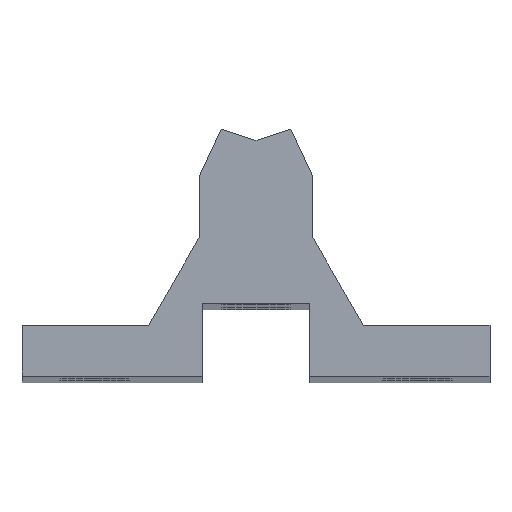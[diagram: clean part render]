
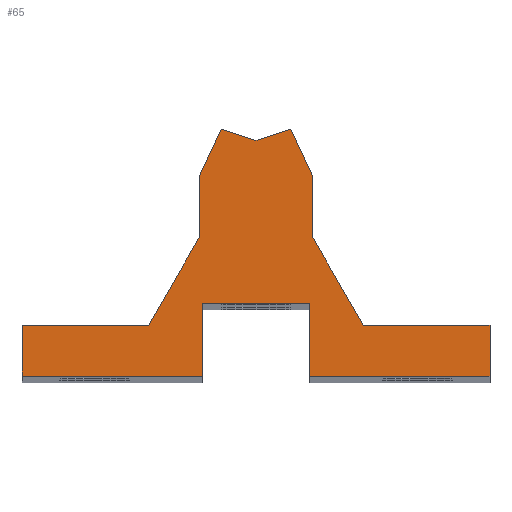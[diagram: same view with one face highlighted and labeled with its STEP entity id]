
A CAD part, top view. The second image highlights one B-rep face of the part: STEP entity #65.
In plain terms, the highlighted planar face has unit normal (0, 0, 1).
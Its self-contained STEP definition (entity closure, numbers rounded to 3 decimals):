
#2 = CARTESIAN_POINT ( 'NONE',  ( 0., 0., 299.75 ) ) ;
#28 = LINE ( 'NONE', #526, #113 ) ;
#57 = VECTOR ( 'NONE', #1507, 1000. ) ;
#65 = ADVANCED_FACE ( 'NONE', ( #877 ), #1020, .T. ) ;
#76 = CARTESIAN_POINT ( 'NONE',  ( -17., 4., 299.75 ) ) ;
#81 = CARTESIAN_POINT ( 'NONE',  ( 5.622, 35.045, 299.75 ) ) ;
#89 = VERTEX_POINT ( 'NONE', #1420 ) ;
#98 = ORIENTED_EDGE ( 'NONE', *, *, #1525, .F. ) ;
#105 = LINE ( 'NONE', #963, #1632 ) ;
#106 = CARTESIAN_POINT ( 'NONE',  ( -17., 4., 299.75 ) ) ;
#113 = VECTOR ( 'NONE', #1033, 1000. ) ;
#115 = VECTOR ( 'NONE', #1371, 1000. ) ;
#116 = DIRECTION ( 'NONE',  ( -0.5, 0.866, 0. ) ) ;
#125 = ORIENTED_EDGE ( 'NONE', *, *, #719, .F. ) ;
#129 = VERTEX_POINT ( 'NONE', #615 ) ;
#137 = LINE ( 'NONE', #270, #1411 ) ;
#164 = VERTEX_POINT ( 'NONE', #419 ) ;
#169 = CARTESIAN_POINT ( 'NONE',  ( -9., 17.856, 299.75 ) ) ;
#173 = EDGE_CURVE ( 'NONE', #190, #174, #437, .T. ) ;
#174 = VERTEX_POINT ( 'NONE', #304 ) ;
#182 = LINE ( 'NONE', #209, #555 ) ;
#183 = EDGE_CURVE ( 'NONE', #560, #694, #813, .T. ) ;
#184 = CARTESIAN_POINT ( 'NONE',  ( -5.516, 35.011, 299.75 ) ) ;
#189 = VECTOR ( 'NONE', #1157, 1000. ) ;
#190 = VERTEX_POINT ( 'NONE', #184 ) ;
#206 = ORIENTED_EDGE ( 'NONE', *, *, #642, .T. ) ;
#209 = CARTESIAN_POINT ( 'NONE',  ( -37., 4., 299.75 ) ) ;
#223 = VERTEX_POINT ( 'NONE', #425 ) ;
#226 = LINE ( 'NONE', #730, #845 ) ;
#227 = CARTESIAN_POINT ( 'NONE',  ( -9., 27.539, 299.75 ) ) ;
#236 = EDGE_CURVE ( 'NONE', #164, #190, #105, .T. ) ;
#261 = VERTEX_POINT ( 'NONE', #736 ) ;
#264 = EDGE_CURVE ( 'NONE', #223, #89, #1216, .T. ) ;
#270 = CARTESIAN_POINT ( 'NONE',  ( 17., 4., 299.75 ) ) ;
#288 = VECTOR ( 'NONE', #860, 1000. ) ;
#293 = CARTESIAN_POINT ( 'NONE',  ( 37., -4., 299.75 ) ) ;
#302 = EDGE_CURVE ( 'NONE', #261, #164, #1485, .T. ) ;
#304 = CARTESIAN_POINT ( 'NONE',  ( -9., 27.539, 299.75 ) ) ;
#356 = ORIENTED_EDGE ( 'NONE', *, *, #1241, .T. ) ;
#404 = CARTESIAN_POINT ( 'NONE',  ( 17., 4., 299.75 ) ) ;
#419 = CARTESIAN_POINT ( 'NONE',  ( 0., 33.272, 299.75 ) ) ;
#425 = CARTESIAN_POINT ( 'NONE',  ( -37., -4., 299.75 ) ) ;
#437 = LINE ( 'NONE', #1439, #1206 ) ;
#446 = CARTESIAN_POINT ( 'NONE',  ( 9., 27.539, 299.75 ) ) ;
#469 = LINE ( 'NONE', #227, #869 ) ;
#474 = VECTOR ( 'NONE', #1464, 1000. ) ;
#499 = ORIENTED_EDGE ( 'NONE', *, *, #183, .T. ) ;
#523 = VECTOR ( 'NONE', #557, 1000. ) ;
#526 = CARTESIAN_POINT ( 'NONE',  ( 37., 4., 299.75 ) ) ;
#548 = CARTESIAN_POINT ( 'NONE',  ( -8.5, 7.5, 299.75 ) ) ;
#555 = VECTOR ( 'NONE', #1354, 1000. ) ;
#557 = DIRECTION ( 'NONE',  ( 0., -1., 0. ) ) ;
#560 = VERTEX_POINT ( 'NONE', #1120 ) ;
#580 = CARTESIAN_POINT ( 'NONE',  ( -8.5, 7.5, 299.75 ) ) ;
#611 = DIRECTION ( 'NONE',  ( 0., 1., 0. ) ) ;
#615 = CARTESIAN_POINT ( 'NONE',  ( 8.5, 7.5, 299.75 ) ) ;
#642 = EDGE_CURVE ( 'NONE', #1626, #1214, #137, .T. ) ;
#647 = CARTESIAN_POINT ( 'NONE',  ( -8.5, 7.5, 299.75 ) ) ;
#656 = CARTESIAN_POINT ( 'NONE',  ( 5.5, 35.045, 299.75 ) ) ;
#663 = CARTESIAN_POINT ( 'NONE',  ( 9., 17.856, 299.75 ) ) ;
#671 = CARTESIAN_POINT ( 'NONE',  ( -37., 4., 299.75 ) ) ;
#694 = VERTEX_POINT ( 'NONE', #293 ) ;
#703 = ORIENTED_EDGE ( 'NONE', *, *, #721, .T. ) ;
#714 = ORIENTED_EDGE ( 'NONE', *, *, #264, .T. ) ;
#719 = EDGE_CURVE ( 'NONE', #129, #1406, #1288, .T. ) ;
#721 = EDGE_CURVE ( 'NONE', #694, #1523, #28, .T. ) ;
#730 = CARTESIAN_POINT ( 'NONE',  ( 8.5, 7.5, 299.75 ) ) ;
#731 = VERTEX_POINT ( 'NONE', #1107 ) ;
#736 = CARTESIAN_POINT ( 'NONE',  ( 5.516, 35.011, 299.75 ) ) ;
#777 = ORIENTED_EDGE ( 'NONE', *, *, #937, .T. ) ;
#778 = ORIENTED_EDGE ( 'NONE', *, *, #236, .T. ) ;
#813 = LINE ( 'NONE', #1297, #988 ) ;
#834 = LINE ( 'NONE', #446, #1652 ) ;
#843 = ORIENTED_EDGE ( 'NONE', *, *, #1373, .T. ) ;
#845 = VECTOR ( 'NONE', #611, 1000. ) ;
#853 = CARTESIAN_POINT ( 'NONE',  ( -37., 4., 299.75 ) ) ;
#860 = DIRECTION ( 'NONE',  ( 1., 0., 0. ) ) ;
#869 = VECTOR ( 'NONE', #1122, 1000. ) ;
#877 = FACE_OUTER_BOUND ( 'NONE', #1463, .T. ) ;
#884 = EDGE_CURVE ( 'NONE', #1246, #1376, #1142, .T. ) ;
#895 = VECTOR ( 'NONE', #1165, 1000. ) ;
#932 = DIRECTION ( 'NONE',  ( -0.423, -0.906, 0. ) ) ;
#937 = EDGE_CURVE ( 'NONE', #1376, #731, #182, .T. ) ;
#963 = CARTESIAN_POINT ( 'NONE',  ( 0., 33.272, 299.75 ) ) ;
#973 = CARTESIAN_POINT ( 'NONE',  ( 37., 4., 299.75 ) ) ;
#988 = VECTOR ( 'NONE', #1450, 1000. ) ;
#1007 = LINE ( 'NONE', #656, #895 ) ;
#1020 = PLANE ( 'NONE',  #1343 ) ;
#1033 = DIRECTION ( 'NONE',  ( 0., 1., 0. ) ) ;
#1035 = ORIENTED_EDGE ( 'NONE', *, *, #1389, .F. ) ;
#1069 = EDGE_CURVE ( 'NONE', #174, #1246, #469, .T. ) ;
#1098 = CARTESIAN_POINT ( 'NONE',  ( -37., -4., 299.75 ) ) ;
#1107 = CARTESIAN_POINT ( 'NONE',  ( -37., 4., 299.75 ) ) ;
#1108 = ORIENTED_EDGE ( 'NONE', *, *, #1069, .T. ) ;
#1115 = DIRECTION ( 'NONE',  ( -0.954, 0.301, 0. ) ) ;
#1119 = VERTEX_POINT ( 'NONE', #1524 ) ;
#1120 = CARTESIAN_POINT ( 'NONE',  ( 8.5, -4., 299.75 ) ) ;
#1122 = DIRECTION ( 'NONE',  ( 0., -1., 0. ) ) ;
#1142 = LINE ( 'NONE', #106, #1304 ) ;
#1157 = DIRECTION ( 'NONE',  ( -1., 0., 0. ) ) ;
#1165 = DIRECTION ( 'NONE',  ( -0.423, 0.906, 0. ) ) ;
#1184 = EDGE_CURVE ( 'NONE', #731, #223, #1361, .T. ) ;
#1206 = VECTOR ( 'NONE', #932, 1000. ) ;
#1214 = VERTEX_POINT ( 'NONE', #663 ) ;
#1216 = LINE ( 'NONE', #1098, #288 ) ;
#1225 = ORIENTED_EDGE ( 'NONE', *, *, #1184, .T. ) ;
#1241 = EDGE_CURVE ( 'NONE', #1119, #261, #1007, .T. ) ;
#1246 = VERTEX_POINT ( 'NONE', #169 ) ;
#1288 = LINE ( 'NONE', #647, #189 ) ;
#1292 = ORIENTED_EDGE ( 'NONE', *, *, #173, .T. ) ;
#1297 = CARTESIAN_POINT ( 'NONE',  ( -37., -4., 299.75 ) ) ;
#1304 = VECTOR ( 'NONE', #1324, 1000. ) ;
#1324 = DIRECTION ( 'NONE',  ( -0.5, -0.866, 0. ) ) ;
#1343 = AXIS2_PLACEMENT_3D ( 'NONE', #2, #1393, #1408 ) ;
#1353 = LINE ( 'NONE', #548, #523 ) ;
#1354 = DIRECTION ( 'NONE',  ( -1., 0., 0. ) ) ;
#1361 = LINE ( 'NONE', #853, #115 ) ;
#1369 = EDGE_CURVE ( 'NONE', #1523, #1626, #1447, .T. ) ;
#1371 = DIRECTION ( 'NONE',  ( 0., -1., 0. ) ) ;
#1373 = EDGE_CURVE ( 'NONE', #1214, #1119, #834, .T. ) ;
#1376 = VERTEX_POINT ( 'NONE', #76 ) ;
#1389 = EDGE_CURVE ( 'NONE', #1406, #89, #1353, .T. ) ;
#1393 = DIRECTION ( 'NONE',  ( 0., 0., 1. ) ) ;
#1402 = ORIENTED_EDGE ( 'NONE', *, *, #1369, .T. ) ;
#1406 = VERTEX_POINT ( 'NONE', #580 ) ;
#1408 = DIRECTION ( 'NONE',  ( 1., 0., 0. ) ) ;
#1411 = VECTOR ( 'NONE', #116, 1000. ) ;
#1420 = CARTESIAN_POINT ( 'NONE',  ( -8.5, -4., 299.75 ) ) ;
#1439 = CARTESIAN_POINT ( 'NONE',  ( -9., 27.539, 299.75 ) ) ;
#1447 = LINE ( 'NONE', #671, #474 ) ;
#1450 = DIRECTION ( 'NONE',  ( 1., 0., 0. ) ) ;
#1457 = DIRECTION ( 'NONE',  ( 0., 1., 0. ) ) ;
#1463 = EDGE_LOOP ( 'NONE', ( #98, #499, #703, #1402, #206, #843, #356, #1561, #778, #1292, #1108, #1586, #777, #1225, #714, #1035, #125 ) ) ;
#1464 = DIRECTION ( 'NONE',  ( -1., 0., 0. ) ) ;
#1485 = LINE ( 'NONE', #81, #57 ) ;
#1507 = DIRECTION ( 'NONE',  ( -0.954, -0.301, 0. ) ) ;
#1523 = VERTEX_POINT ( 'NONE', #973 ) ;
#1524 = CARTESIAN_POINT ( 'NONE',  ( 9., 27.539, 299.75 ) ) ;
#1525 = EDGE_CURVE ( 'NONE', #560, #129, #226, .T. ) ;
#1561 = ORIENTED_EDGE ( 'NONE', *, *, #302, .T. ) ;
#1586 = ORIENTED_EDGE ( 'NONE', *, *, #884, .T. ) ;
#1626 = VERTEX_POINT ( 'NONE', #404 ) ;
#1632 = VECTOR ( 'NONE', #1115, 1000. ) ;
#1652 = VECTOR ( 'NONE', #1457, 1000. ) ;
